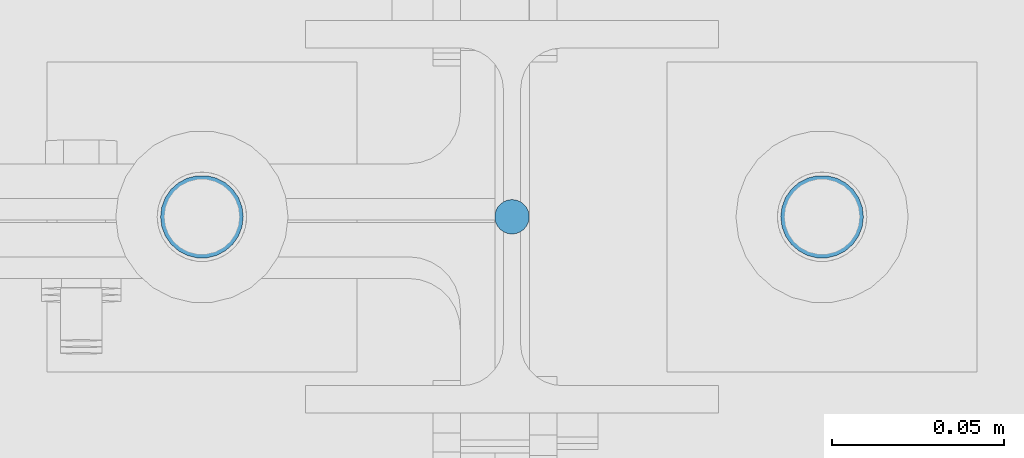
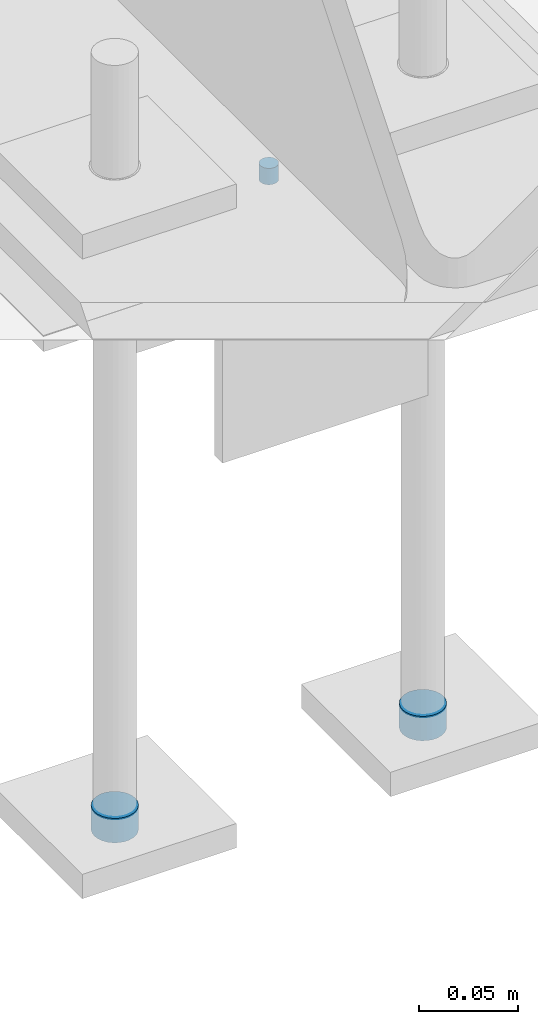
# One storey, part 317 of 362: 3 mechanical fasteners.
"""IFC2X3 building model written with IfcOpenShell, lengths in millimetres."""

from ifc_helpers import new_model, si_unit, frame, origin_with_axes, origin_2d_with_axis, place, context, subcontext, project, spatial, circle, extrude, source, transform, mapped, material, type_object, element, save


model = new_model("IFC2X3")

# Units and contexts
model_context = context("Model", 3, precision=1e-05, world=origin_with_axes())
body_context = subcontext(model_context, "Body", "Model", "MODEL_VIEW")
ifc_project = project(units=[si_unit("LENGTHUNIT", "METRE", prefix="MILLI"), si_unit("AREAUNIT", "SQUARE_METRE"), si_unit("VOLUMEUNIT", "CUBIC_METRE"), si_unit("MASSUNIT", "GRAM", prefix="KILO"), si_unit("TIMEUNIT", "SECOND"), si_unit("PLANEANGLEUNIT", "RADIAN"), si_unit("SOLIDANGLEUNIT", "STERADIAN"), si_unit("THERMODYNAMICTEMPERATUREUNIT", "DEGREE_CELSIUS"), si_unit("LUMINOUSINTENSITYUNIT", "LUMEN")], contexts=[model_context])

# Site, building, storey
site_placement = place(None, origin_with_axes())
site = spatial("IfcSite", under=ifc_project, at=site_placement, Name="Undefined", CompositionType="ELEMENT")
building_placement = place(site_placement, origin_with_axes())
building = spatial("IfcBuilding", under=site, at=building_placement, Name="Undefined", CompositionType="ELEMENT")
storey_placement = place(building_placement, origin_with_axes())
storey = spatial("IfcBuildingStorey", under=building, at=storey_placement, Name="Undefined", CompositionType="ELEMENT", Elevation=0.0)

# Mechanical fasteners
ifc_material = material(Name="6.8")
mechanical_fastener_type = type_object("IfcMechanicalFastenerType", Name="Bolt assembly")
shared_shape_1 = source(origin_with_axes(), body_context, "Body", "SweptSolid", [
    extrude(circle(Radius=12.0, at=origin_2d_with_axis()), frame((0.0, -14.999999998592, 0.0), z_axis=(0.0, 1.0, 0.0), x_axis=(1.0, 0.0, 0.0)), (0.0, 0.0, 1.0), 15.1),
])
for number, where, z_axis, x_axis, name in (
    (1, (39539.9971504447, 0.0, -580.0), (0.0, -1.0, 0.0), (-1.0, 0.0, 0.0), "Bolt assembly"),
    (2, (39719.9971504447, 0.0, -580.0), (0.0, -1.0, 0.0), (-1.0, 0.0, 0.0), "Bolt assembly"),
):
    element("IfcMechanicalFastener", number, at=place(storey_placement, frame(where, z_axis=z_axis, x_axis=x_axis)), inside=storey, type_object=mechanical_fastener_type, material=ifc_material, Name=name, NominalDiameter=22.0, NominalLength=15.0, context=body_context, shape_type="MappedRepresentation", body=[
        mapped(shared_shape_1, transform((0.0, 0.0, 0.0))),
    ])
shared_shape_2 = source(origin_with_axes(), body_context, "Body", "SweptSolid", [
    extrude(circle(Radius=5.0, at=origin_2d_with_axis()), frame((0.0, 0.0, 0.0), z_axis=(0.0, 1.0, 0.0), x_axis=(1.0, 0.0, 0.0)), (0.0, 0.0, 1.0), 10.1),
])
mechanical_fastener_placement = place(storey_placement, frame((39630.0000000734, 0.0, -200.0), z_axis=(1.0, 0.0, 0.0), x_axis=(0.0, -1.0, 0.0)))
element("IfcMechanicalFastener", 3, at=mechanical_fastener_placement, inside=storey, type_object=mechanical_fastener_type, material=ifc_material, Name="Bolt assembly", NominalDiameter=8.0, NominalLength=10.0, context=body_context, shape_type="MappedRepresentation", body=[
    mapped(shared_shape_2, transform((0.0, 0.0, 0.0))),
])

save(model, "model.ifc")
